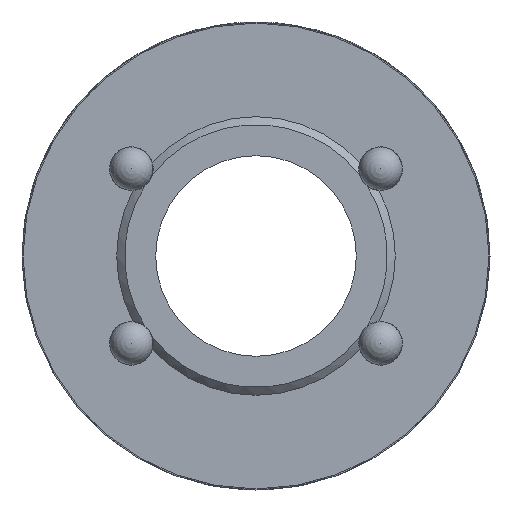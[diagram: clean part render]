
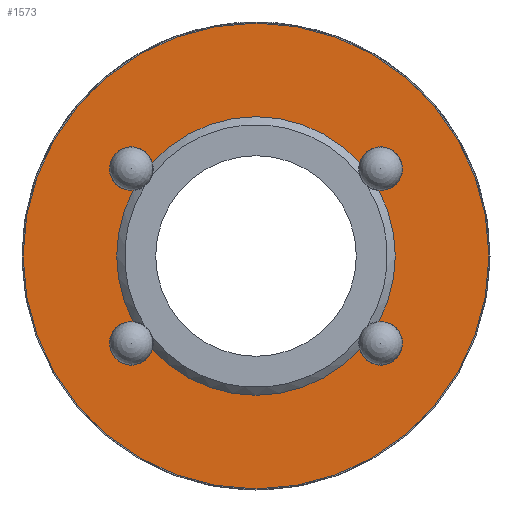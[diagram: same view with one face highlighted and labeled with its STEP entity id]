
A CAD part, left-side view. The second image highlights one B-rep face of the part: STEP entity #1573.
In plain terms, the highlighted planar face has unit normal (-1, 0, 0).
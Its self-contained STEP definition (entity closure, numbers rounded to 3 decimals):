
#54=PLANE('',#1701);
#202=CIRCLE('',#1687,12.5);
#205=CIRCLE('',#1691,12.5);
#206=CIRCLE('',#1693,12.5);
#209=CIRCLE('',#1697,12.5);
#210=CIRCLE('',#1699,20.9);
#212=CIRCLE('',#1702,1.96);
#213=CIRCLE('',#1703,1.96);
#214=CIRCLE('',#1704,1.96);
#215=CIRCLE('',#1705,1.96);
#447=ORIENTED_EDGE('',*,*,#791,.F.);
#448=ORIENTED_EDGE('',*,*,#879,.T.);
#449=ORIENTED_EDGE('',*,*,#819,.F.);
#450=ORIENTED_EDGE('',*,*,#880,.T.);
#451=ORIENTED_EDGE('',*,*,#831,.F.);
#452=ORIENTED_EDGE('',*,*,#881,.T.);
#453=ORIENTED_EDGE('',*,*,#876,.F.);
#454=ORIENTED_EDGE('',*,*,#882,.T.);
#455=ORIENTED_EDGE('',*,*,#877,.T.);
#791=EDGE_CURVE('',#1016,#1017,#202,.T.);
#819=EDGE_CURVE('',#1044,#1045,#205,.T.);
#831=EDGE_CURVE('',#1056,#1057,#206,.T.);
#876=EDGE_CURVE('',#1101,#1078,#209,.T.);
#877=EDGE_CURVE('',#1102,#1102,#210,.T.);
#879=EDGE_CURVE('',#1016,#1045,#212,.T.);
#880=EDGE_CURVE('',#1044,#1057,#213,.T.);
#881=EDGE_CURVE('',#1056,#1078,#214,.T.);
#882=EDGE_CURVE('',#1101,#1017,#215,.T.);
#1016=VERTEX_POINT('',#2320);
#1017=VERTEX_POINT('',#2322);
#1044=VERTEX_POINT('',#2410);
#1045=VERTEX_POINT('',#2412);
#1056=VERTEX_POINT('',#2450);
#1057=VERTEX_POINT('',#2452);
#1078=VERTEX_POINT('',#2533);
#1101=VERTEX_POINT('',#2608);
#1102=VERTEX_POINT('',#2612);
#1298=EDGE_LOOP('',(#447,#448,#449,#450,#451,#452,#453,#454));
#1299=EDGE_LOOP('',(#455));
#1426=FACE_BOUND('',#1298,.T.);
#1427=FACE_BOUND('',#1299,.T.);
#1573=ADVANCED_FACE('',(#1426,#1427),#54,.F.);
#1687=AXIS2_PLACEMENT_3D('',#2321,#1888,#1889);
#1691=AXIS2_PLACEMENT_3D('',#2411,#1910,#1911);
#1693=AXIS2_PLACEMENT_3D('',#2451,#1920,#1921);
#1697=AXIS2_PLACEMENT_3D('',#2609,#1950,#1951);
#1699=AXIS2_PLACEMENT_3D('',#2611,#1954,#1955);
#1701=AXIS2_PLACEMENT_3D('',#2615,#1958,#1959);
#1702=AXIS2_PLACEMENT_3D('',#2616,#1960,#1961);
#1703=AXIS2_PLACEMENT_3D('',#2617,#1962,#1963);
#1704=AXIS2_PLACEMENT_3D('',#2618,#1964,#1965);
#1705=AXIS2_PLACEMENT_3D('',#2619,#1966,#1967);
#1888=DIRECTION('',(-1.,0.,0.));
#1889=DIRECTION('',(0.,0.,1.));
#1910=DIRECTION('',(-1.,0.,0.));
#1911=DIRECTION('',(0.,0.,1.));
#1920=DIRECTION('',(-1.,0.,0.));
#1921=DIRECTION('',(0.,0.,1.));
#1950=DIRECTION('',(-1.,0.,0.));
#1951=DIRECTION('',(0.,0.,1.));
#1954=DIRECTION('',(-1.,0.,0.));
#1955=DIRECTION('',(0.,0.,1.));
#1958=DIRECTION('',(1.,0.,0.));
#1959=DIRECTION('',(0.,0.,-1.));
#1960=DIRECTION('',(1.,0.,0.));
#1961=DIRECTION('',(0.,-1.,0.));
#1962=DIRECTION('',(1.,0.,0.));
#1963=DIRECTION('',(0.,1.,0.));
#1964=DIRECTION('',(1.,0.,0.));
#1965=DIRECTION('',(0.,1.,0.));
#1966=DIRECTION('',(1.,0.,0.));
#1967=DIRECTION('',(0.,-1.,0.));
#2320=CARTESIAN_POINT('',(-35.5,11.03,5.882));
#2321=CARTESIAN_POINT('',(-35.5,0.,0.));
#2322=CARTESIAN_POINT('',(-35.5,11.03,-5.882));
#2410=CARTESIAN_POINT('',(-35.5,-9.299,8.353));
#2411=CARTESIAN_POINT('',(-35.5,0.,0.));
#2412=CARTESIAN_POINT('',(-35.5,9.299,8.353));
#2450=CARTESIAN_POINT('',(-35.5,-11.03,-5.882));
#2451=CARTESIAN_POINT('',(-35.5,0.,0.));
#2452=CARTESIAN_POINT('',(-35.5,-11.03,5.882));
#2533=CARTESIAN_POINT('',(-35.5,-9.299,-8.353));
#2608=CARTESIAN_POINT('',(-35.5,9.299,-8.353));
#2609=CARTESIAN_POINT('',(-35.5,0.,0.));
#2611=CARTESIAN_POINT('',(-35.5,0.,0.));
#2612=CARTESIAN_POINT('',(-35.5,0.,20.9));
#2615=CARTESIAN_POINT('',(-35.5,20.9,0.));
#2616=CARTESIAN_POINT('',(-35.5,11.19,7.835));
#2617=CARTESIAN_POINT('',(-35.5,-11.19,7.835));
#2618=CARTESIAN_POINT('',(-35.5,-11.19,-7.835));
#2619=CARTESIAN_POINT('',(-35.5,11.19,-7.835));
